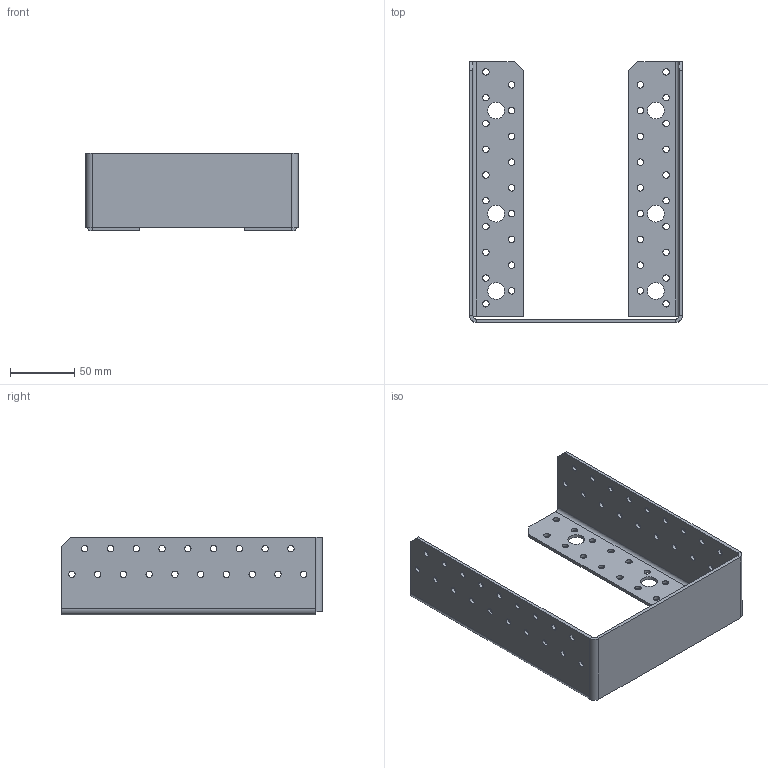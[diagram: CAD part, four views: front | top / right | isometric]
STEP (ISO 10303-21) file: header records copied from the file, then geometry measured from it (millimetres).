
FILE_DESCRIPTION (( 'STEP AP203' ), '1' );
FILE_NAME ('40517IKO.STEP', '2021-04-16T08:40:34', ( '' ), ( '' ), 'SwSTEP 2.0', 'SolidWorks 2013', '' );
FILE_SCHEMA (( 'CONFIG_CONTROL_DESIGN' ));
Length unit declared in the file: millimetre
Products named in the file (1): 40517IKO
Bounding box: 165 x 202.5 x 60.5 mm (x, y, z)
Volume: 114883.5 mm3; surface area: 98962.9 mm2
Topology: 1 solids, 1 shells, 208 faces, 588 edges, 382 vertices
Faces by surface type: cylinder 172, plane 36
Entity records: 7303 total; most frequent: DIRECTION 1352, CARTESIAN_POINT 1179, ORIENTED_EDGE 1176, EDGE_CURVE 588, AXIS2_PLACEMENT_3D 555, VERTEX_POINT 382, EDGE_LOOP 372, CIRCLE 346
